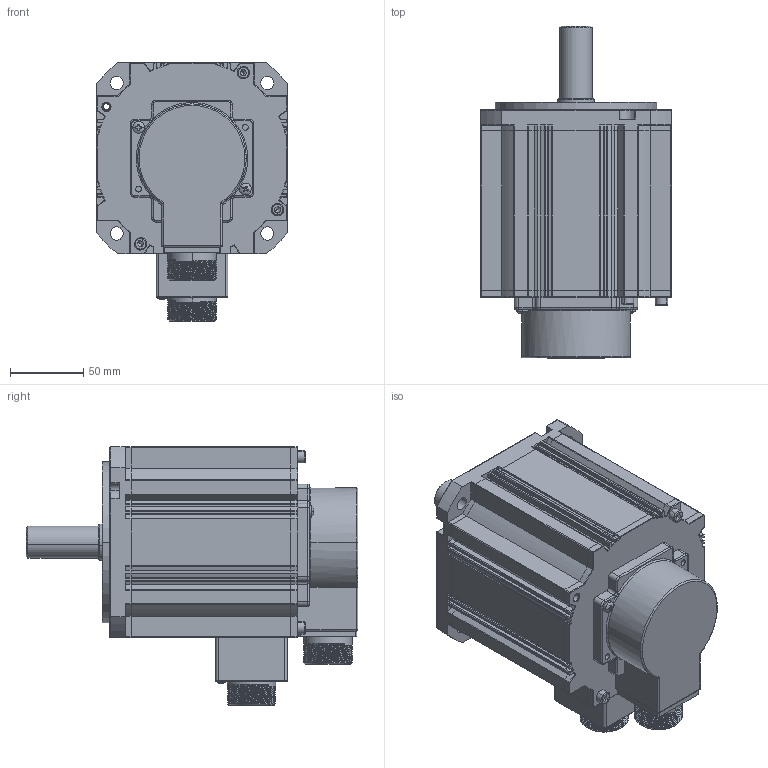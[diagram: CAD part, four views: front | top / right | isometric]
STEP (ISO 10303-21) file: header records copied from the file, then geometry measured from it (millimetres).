
FILE_DESCRIPTION (( 'STEP AP203' ), '1' );
FILE_NAME ('WF130BST-M11515.STEP', '2022-09-06T10:18:24', ( '' ), ( '' ), 'SwSTEP 2.0', 'SolidWorks 2018', '' );
FILE_SCHEMA (( 'CONFIG_CONTROL_DESIGN' ));
Length unit declared in the file: millimetre
Products named in the file (17): jike.STEP; cross recessed pan head screws gb_GB_CROSS_SCREWS_TYPE1 M3X12-12  H type-N.STEP; ______-0.STEP; hexagon socket head cap screws gb_GB_FASTENER_SCREWS_HSHCS M5X20-N.STEP; ______.STEP; deep groove ball bearings gb_Rolling bearings 6204 GB 276-94.STEP; ________-3.STEP; ________.STEP; WF130BST-M11515; ______-2.STEP; deep groove ball bearings gb_Rolling bearings 6205 GB 276-94.STEP; ____1.STEP; __.STEP; cross recessed pan head screws gb_GB_CROSS_SCREWS_TYPE1 M4X12-12  H type-N.STEP; ______-1.STEP; ________-1.STEP; WF130ST-M095520-3D.STEP
Assembly tree (23 placements, depth 4):
  WF130BST-M11515
    WF130ST-M095520-3D.STEP
      ________.STEP
        ______.STEP
        ____1.STEP
        ______-0.STEP
      ________-1.STEP
        __.STEP
        deep groove ball bearings gb_Rolling bearings 6205 GB 276-94.STEP  x2
        deep groove ball bearings gb_Rolling bearings 6204 GB 276-94.STEP  x2
      jike.STEP
      ______-1.STEP
      ______-2.STEP
      ________-3.STEP
      ____1.STEP
      hexagon socket head cap screws gb_GB_FASTENER_SCREWS_HSHCS M5X20-N.STEP  x4
      cross recessed pan head screws gb_GB_CROSS_SCREWS_TYPE1 M4X12-12  H type-N.STEP  x2
      cross recessed pan head screws gb_GB_CROSS_SCREWS_TYPE1 M3X12-12  H type-N.STEP
Bounding box: 130 x 226 x 176 mm (x, y, z)
Volume: 856693.2 mm3; surface area: 359128.6 mm2
Topology: 20 solids, 20 shells, 2478 faces, 7102 edges, 4358 vertices
Faces by surface type: cylinder 955, plane 611, torus 486, sphere 268, bspline 116, cone 42
Entity records: 79195 total; most frequent: CARTESIAN_POINT 27936, ORIENTED_EDGE 10638, DIRECTION 10308, EDGE_CURVE 5319, AXIS2_PLACEMENT_3D 4154, VERTEX_POINT 3333, CIRCLE 2226, EDGE_LOOP 2160
